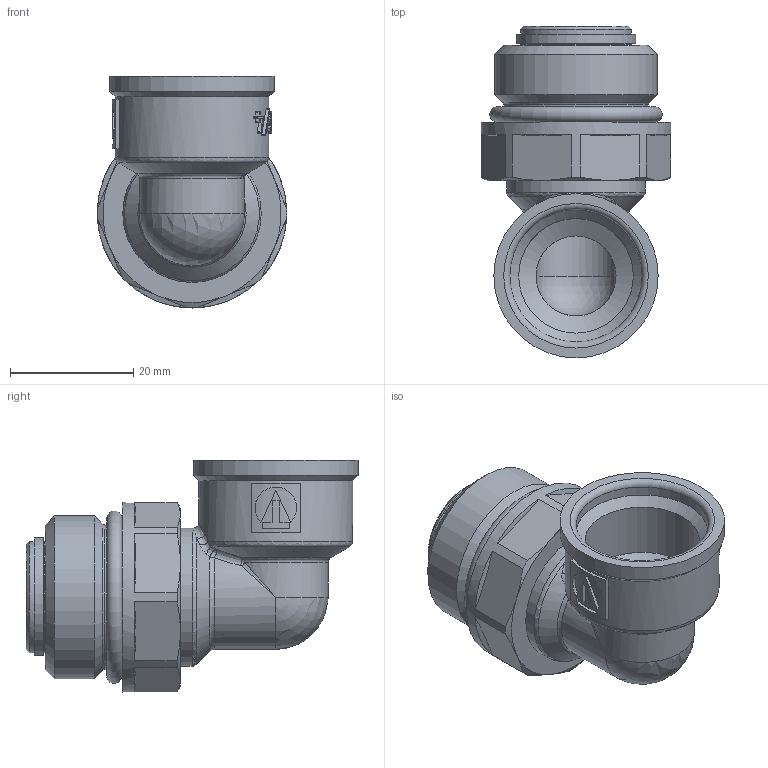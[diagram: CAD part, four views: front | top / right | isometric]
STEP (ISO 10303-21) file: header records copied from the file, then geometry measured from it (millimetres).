
FILE_DESCRIPTION(('STEP AP242'), '1');
FILE_NAME('VTc.631.N.0504', '', ('UNSPECIFIED'), ('UNSPECIFIED'), 'C3D Converter', 'C3D Toolkit', '');
FILE_SCHEMA(('AP242_MANAGED_MODEL_BASED_3D_ENGINEERING_MIM_LF { 1 0 10303 442 1 1 4 }'));
Length unit declared in the file: millimetre
Products named in the file (1): ВР.302635.093.000 СБ
Bounding box: 30.8 x 53.95 x 37.7 mm (x, y, z)
Volume: 16869.5 mm3; surface area: 9176.9 mm2
Topology: 1 solids, 1 shells, 278 faces, 747 edges, 481 vertices
Faces by surface type: extrusion 108, plane 89, cylinder 28, cone 26, bspline 16, torus 9, sphere 2
Full cylindrical faces by diameter (mm): 13 x2, 18 x2, 18.632 x1, 21.5 x1, 22.5 x1, 23.5 x1, 25 x1, 26.441 x1, 26.7 x1, 30.8 x1
Entity records: 12464 total; most frequent: CARTESIAN_POINT 6388, ORIENTED_EDGE 1428, DIRECTION 878, EDGE_CURVE 714, VERTEX_POINT 479, B_SPLINE_CURVE_WITH_KNOTS 397, VECTOR 344, EDGE_LOOP 319
